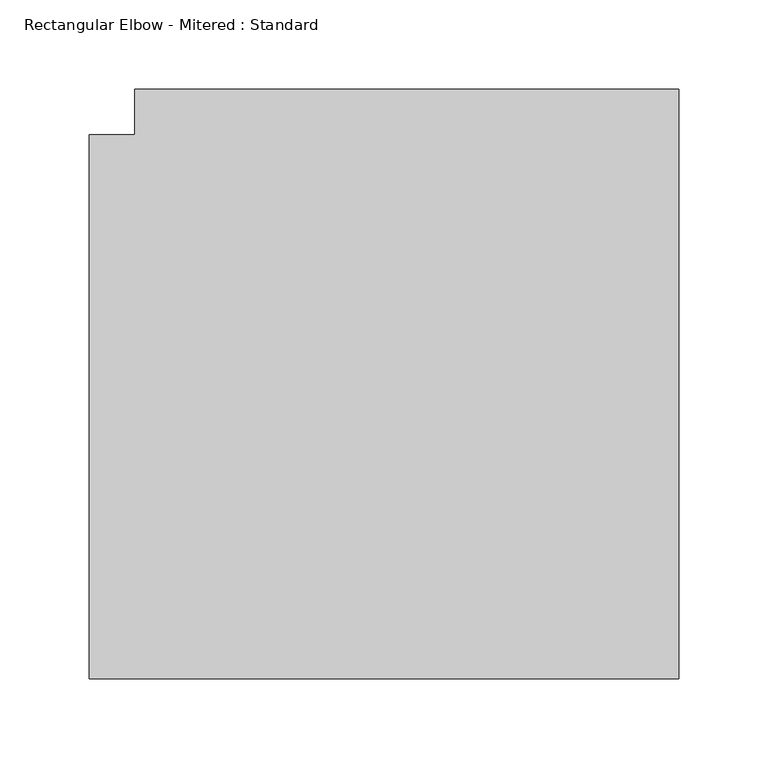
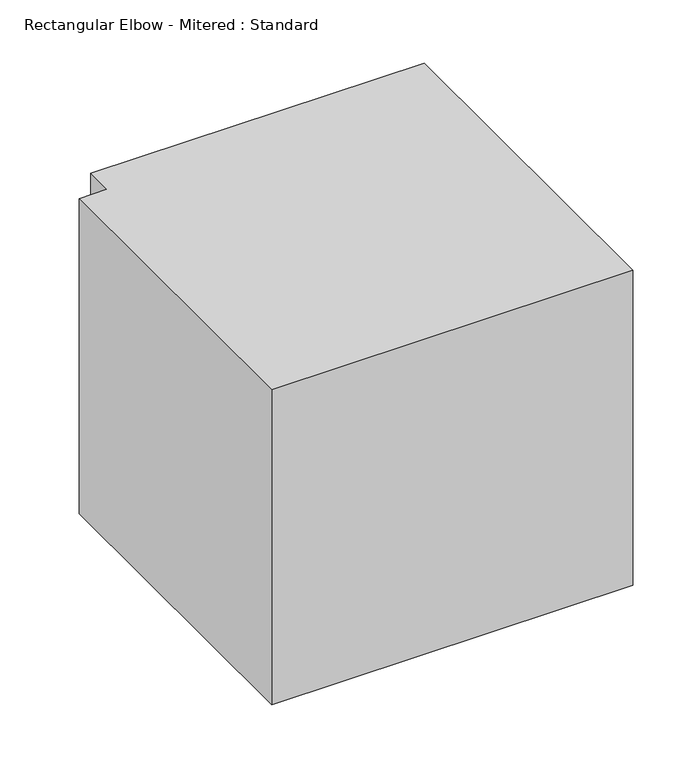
"""IFC4 building model written with IfcOpenShell, lengths in millimetres: duct fitting geometry, Rectangular Elbow - Mitered : Standard."""

import ifcopenshell
import ifcopenshell.guid

model = None  # the IFC model being written
_history = None  # IfcOwnerHistory: only IFC2X3 demands one
_inside = {}  # id of a spatial element -> (the spatial element, [elements in it])
_under = {}  # id of a project, library or spatial element -> (it, [spatial elements below it])
_declared = {}  # id of a project -> (the project, [libraries it declares])
_typed = {}  # id of a type object -> (the type object, [elements of that type])
_made_of = {}  # id of a material, layer set ... -> (it, [elements and type objects made of it])


def new_model(schema):
    """Start an empty IFC model of exactly this schema.

    Asked for "IFC4X3", IfcOpenShell would pick the latest addendum, in which some entities
    have other attributes; the version numbers below select the first issue.
    IFC2X3 requires an IfcOwnerHistory on every rooted entity: one is made here for all.
    """
    global model, _history
    if schema == "IFC4X3":
        model = ifcopenshell.file(schema_version=(4, 3, 0, 0))
    else:
        model = ifcopenshell.file(schema=schema)
    _inside.clear()
    _under.clear()
    _declared.clear()
    _typed.clear()
    _made_of.clear()
    _history = None
    if model.schema == "IFC2X3":
        org = make("IfcOrganization", Name="unknown")
        user = make(
            "IfcPersonAndOrganization",
            ThePerson=make("IfcPerson", FamilyName="unknown"),
            TheOrganization=org,
        )
        app = make(
            "IfcApplication",
            ApplicationDeveloper=org,
            Version="unknown",
            ApplicationFullName="unknown",
            ApplicationIdentifier="unknown",
        )
        _history = make(
            "IfcOwnerHistory",
            OwningUser=user,
            OwningApplication=app,
            ChangeAction="ADDED",
            CreationDate=0,
        )
    return model


def make(cls, **values):
    """One entity of the class cls with the attributes given. An attribute that is None is left unset."""
    return model.create_entity(
        cls, **{name: value for name, value in values.items() if value is not None}
    )


def rooted(cls, **values):
    """An entity with a GlobalId (a new one), such as an element, a storey or a relation."""
    return make(cls, GlobalId=ifcopenshell.guid.new(), OwnerHistory=_history, **values)


def si_unit(unit_type, name, prefix=None):
    """IfcSIUnit, for example si_unit("LENGTHUNIT", "METRE", prefix="MILLI")."""
    return make("IfcSIUnit", UnitType=unit_type, Prefix=prefix, Name=name)


def assignment(units):
    """IfcUnitAssignment: the units of a project."""
    return None if units is None else make("IfcUnitAssignment", Units=units)


def point(xyz):
    """IfcCartesianPoint."""
    return None if xyz is None else make("IfcCartesianPoint", Coordinates=xyz)


def direction(xyz):
    """IfcDirection."""
    return None if xyz is None else make("IfcDirection", DirectionRatios=xyz)


def frame(location, z_axis=None, x_axis=None):
    """IfcAxis2Placement3D, a coordinate frame: its origin and axes. An axis left out is left unset."""
    return make(
        "IfcAxis2Placement3D",
        Location=point(location),
        Axis=direction(z_axis),
        RefDirection=direction(x_axis),
    )


def origin():
    """The frame at (0, 0, 0) with its axes left unset."""
    return frame((0.0, 0.0, 0.0))


def place(relative_to, where):
    """IfcLocalPlacement: puts the frame where relative to a parent placement (None: the world)."""
    return make(
        "IfcLocalPlacement", PlacementRelTo=relative_to, RelativePlacement=where
    )


def context(
    kind, dimensions, precision=None, world=None, true_north=None, identifier=None
):
    """IfcGeometricRepresentationContext, for example the 3D "Model" context."""
    return make(
        "IfcGeometricRepresentationContext",
        ContextIdentifier=identifier,
        ContextType=kind,
        CoordinateSpaceDimension=dimensions,
        Precision=precision,
        WorldCoordinateSystem=world,
        TrueNorth=true_north,
    )


def project(units=None, contexts=None):
    """IfcProject with its units and contexts."""
    return rooted(
        "IfcProject",
        Name="project",
        RepresentationContexts=contexts,
        UnitsInContext=assignment(units),
    )


def spatial(cls, under=None, at=None, **own):
    """A site, building, storey or space (cls), placed at a placement, below another one or the project."""
    s = rooted(cls, ObjectPlacement=at, **own)
    if under is not None:
        _under.setdefault(under.id(), (under, []))[1].append(s)
    return s


def polyline(points):
    """IfcPolyline through the points."""
    return make("IfcPolyline", Points=[point(p) for p in points])


def outline(outer, holes=None, kind="AREA"):
    """IfcArbitraryClosedProfileDef: a profile drawn as a closed curve; with holes, ...WithVoids."""
    if holes is None:
        return make("IfcArbitraryClosedProfileDef", ProfileType=kind, OuterCurve=outer)
    return make(
        "IfcArbitraryProfileDefWithVoids",
        ProfileType=kind,
        OuterCurve=outer,
        InnerCurves=holes,
    )


def extrude(swept, where, along, depth):
    """IfcExtrudedAreaSolid: the profile swept, set in the frame where, extruded along a direction by depth."""
    return make(
        "IfcExtrudedAreaSolid",
        SweptArea=swept,
        Position=where,
        ExtrudedDirection=direction(along),
        Depth=depth,
    )


def shape(context_of_items, identifier, shape_type, items):
    """IfcShapeRepresentation: the items that make up one representation, for example the "Body"."""
    return make(
        "IfcShapeRepresentation",
        ContextOfItems=context_of_items,
        RepresentationIdentifier=identifier,
        RepresentationType=shape_type,
        Items=items,
    )


def source(mapping_origin, context_of_items, identifier, shape_type, items):
    """IfcRepresentationMap: a shape defined once, which mapped items show again and again."""
    return make(
        "IfcRepresentationMap",
        MappingOrigin=mapping_origin,
        MappedRepresentation=shape(context_of_items, identifier, shape_type, items),
    )


def transform(
    local_origin,
    x_axis=None,
    y_axis=None,
    z_axis=None,
    scale=None,
    scale2=None,
    scale3=None,
    uniform=True,
):
    """IfcCartesianTransformationOperator3D, or its non-uniform kind. x_axis, y_axis, z_axis: its Axis1, 2, 3."""
    if uniform:
        return make(
            "IfcCartesianTransformationOperator3D",
            Axis1=direction(x_axis),
            Axis2=direction(y_axis),
            LocalOrigin=point(local_origin),
            Scale=scale,
            Axis3=direction(z_axis),
        )
    return make(
        "IfcCartesianTransformationOperator3DnonUniform",
        Axis1=direction(x_axis),
        Axis2=direction(y_axis),
        LocalOrigin=point(local_origin),
        Scale=scale,
        Axis3=direction(z_axis),
        Scale2=scale2,
        Scale3=scale3,
    )


def mapped(mapping_source, mapping_target):
    """IfcMappedItem: shows the shape of a source again, moved by a transform."""
    return make(
        "IfcMappedItem", MappingSource=mapping_source, MappingTarget=mapping_target
    )


def made_of(thing, what):
    """Note that an element or type object is made of a material, layer set ...; save() writes the relation."""
    if what is not None:
        _made_of.setdefault(what.id(), (what, []))[1].append(thing)
    return thing


def element(
    cls,
    number,
    at=None,
    inside=None,
    cuts=None,
    type_object=None,
    material=None,
    context=None,
    identifier="Body",
    shape_type=None,
    held_by="IfcProductDefinitionShape",
    body=None,
    shapes=None,
    **own,
):
    """One element of the class cls, such as IfcWall. Its Tag is "e" and its number.

    at: its placement. inside: the storey or other place that contains it. cuts: it is an
    opening in that element (IfcRelVoidsElement). A single representation is given by context,
    identifier, shape_type and body (its items); several are given by shapes. held_by: the class
    of the entity that holds the representations. save() writes the other relations.
    """
    e = rooted(cls, Tag="e%d" % number, ObjectPlacement=at, **own)
    if body is not None:
        shapes = [shape(context, identifier, shape_type, body)]
    if shapes is not None:
        e.Representation = make(held_by, Representations=shapes)
    if inside is not None:
        _inside.setdefault(inside.id(), (inside, []))[1].append(e)
    if cuts is not None:
        rooted(
            "IfcRelVoidsElement", RelatingBuildingElement=cuts, RelatedOpeningElement=e
        )
    if type_object is not None:
        _typed.setdefault(type_object.id(), (type_object, []))[1].append(e)
    return made_of(e, material)


def aggregate(whole, parts):
    """IfcRelAggregates: a whole, such as a stair, and the parts it consists of."""
    return rooted("IfcRelAggregates", RelatingObject=whole, RelatedObjects=parts)


def save(model, path):
    """Write the relations noted so far, then the file.

    IfcRelAggregates (storeys below a building ...), IfcRelContainedInSpatialStructure (elements
    in a storey), IfcRelDefinesByType, IfcRelAssociatesMaterial and IfcRelDeclares: one each for
    every whole, place, type object, material and project.
    """
    for whole, parts in _under.values():
        aggregate(whole, parts)
    for where, things in _inside.values():
        rooted(
            "IfcRelContainedInSpatialStructure",
            RelatedElements=things,
            RelatingStructure=where,
        )
    for kind, things in _typed.values():
        rooted("IfcRelDefinesByType", RelatedObjects=things, RelatingType=kind)
    for what, things in _made_of.values():
        rooted("IfcRelAssociatesMaterial", RelatedObjects=things, RelatingMaterial=what)
    for by, libraries in _declared.values():
        rooted("IfcRelDeclares", RelatingContext=by, RelatedDefinitions=libraries)
    model.write(path)


def rectangular_elbow_mitered_standard_4ff1c4e8(model_context):
    return source(origin(), model_context, "Body", "SweptSolid", [
        extrude(outline(polyline([(-177.8, -152.4), (-177.8, 152.4), (-152.4, 152.4), (-152.4, 177.8), (152.4, 177.8), (152.4, -152.4), (-177.8, -152.4)])), frame((0.0, 0.0, -152.4), z_axis=(0.0, 0.0, 1.0), x_axis=(1.0, 0.0, 0.0)), (0.0, 0.0, 1.0), 304.8),
    ])


if __name__ == "__main__":
    model = new_model("IFC4")
    model_context = context("Model", 3, world=origin())
    ifc_project = project(units=[si_unit("LENGTHUNIT", "METRE", prefix="MILLI")], contexts=[model_context])
    site = spatial("IfcSite", under=ifc_project)
    building = spatial("IfcBuilding", under=site)
    placement = place(None, origin())
    rectangular_elbow_mitered_standard_shape = rectangular_elbow_mitered_standard_4ff1c4e8(model_context)
    element("IfcDuctFitting", 1, ObjectType="Rectangular Elbow - Mitered : Standard", at=placement, inside=building, context=model_context, shape_type="MappedRepresentation", body=[
        mapped(rectangular_elbow_mitered_standard_shape, transform((0.0, 0.0, 0.0), x_axis=(1.0, 0.0, 0.0), y_axis=(0.0, 1.0, 0.0), z_axis=(0.0, 0.0, 1.0))),
    ])
    save(model, "model.ifc")
